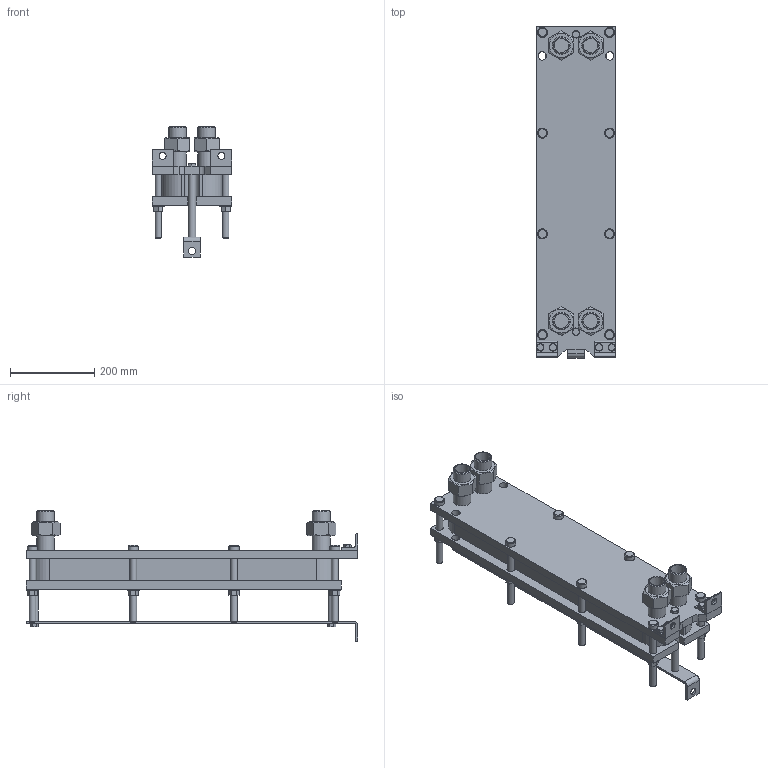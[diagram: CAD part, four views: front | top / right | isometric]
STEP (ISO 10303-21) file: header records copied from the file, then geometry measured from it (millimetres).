
FILE_DESCRIPTION(/* description */ (''),/* implementation_level */ '2;1');
FILE_NAME(/* name */ 'C:\Users\zhuro\Desktop\ENCO\TO\ЭН-008\ЭН-0,5-008-17-1.stp',/* time_stamp */ '2022-06-06T10:46:13+03:00',/* author */ ('zhuro'),/* organization */ (''),/* preprocessor_version */ 'ST-DEVELOPER v18.1',/* originating_system */ 'Autodesk Inventor 2022',/* authorisation */ '');
FILE_SCHEMA (('AUTOMOTIVE_DESIGN { 1 0 10303 214 3 1 1 }'));
Length unit declared in the file: millimetre
Products named in the file (1): ЭН-0,5-008-17-1
Bounding box: 190 x 790 x 310.6 mm (x, y, z)
Volume: 11993186.7 mm3; surface area: 1319441.9 mm2
Topology: 40 solids, 40 shells, 428 faces, 924 edges, 606 vertices
Faces by surface type: plane 273, cylinder 109, cone 40, torus 6
Full cylindrical faces by diameter (mm): 12 x6, 14 x2, 16 x20, 17 x8, 18 x19, 20 x5, 24 x8, 28 x8, 34.3 x8, 42.3 x8
Entity records: 15843 total; most frequent: CARTESIAN_POINT 5991, DIRECTION 1984, ORIENTED_EDGE 1848, EDGE_CURVE 924, AXIS2_PLACEMENT_3D 715, VERTEX_POINT 606, LINE 554, VECTOR 554
